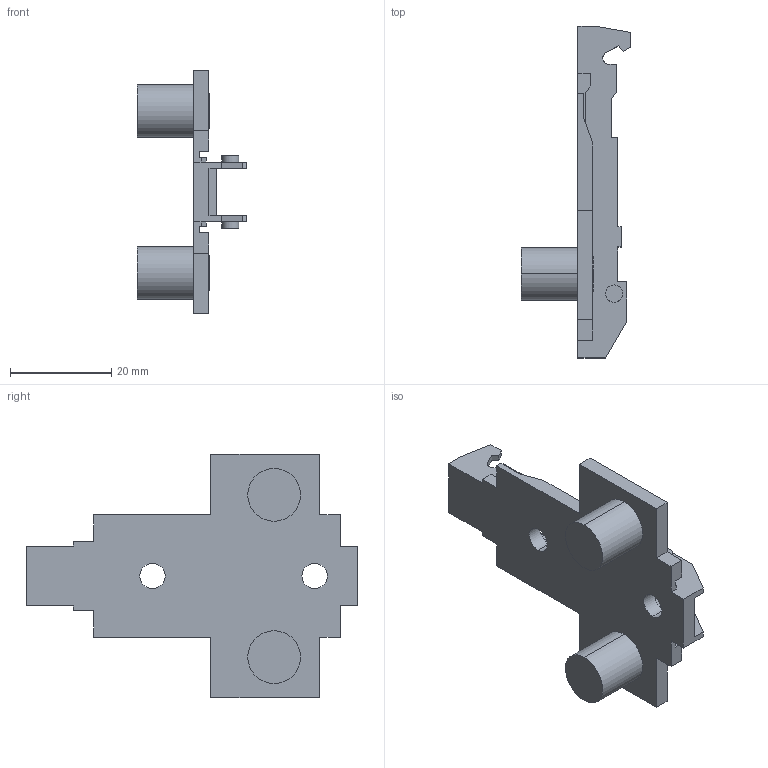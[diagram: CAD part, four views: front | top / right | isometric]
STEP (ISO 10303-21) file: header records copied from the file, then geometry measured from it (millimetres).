
FILE_DESCRIPTION (( 'STEP AP214' ), '1' );
FILE_NAME ('1D_Kreuzmontageplatte 28_32_10mm_Dübel_0.step', '2018-10-02T12:38:26', ( '' ), ( '' ), 'SwSTEP 2.0', 'SolidWorks 2017', '' );
FILE_SCHEMA (( 'AUTOMOTIVE_DESIGN' ));
Length unit declared in the file: millimetre
Products named in the file (1): 1D_Kreuzmontageplatte 28_32_10mm_Dübel_0
Bounding box: 21.7 x 65.5 x 48 mm (x, y, z)
Volume: 8042 mm3; surface area: 6865.2 mm2
Topology: 1 solids, 1 shells, 112 faces, 308 edges, 204 vertices
Faces by surface type: plane 86, cylinder 22, cone 4
Entity records: 3570 total; most frequent: CARTESIAN_POINT 625, ORIENTED_EDGE 616, DIRECTION 582, EDGE_CURVE 308, LINE 260, VECTOR 260, VERTEX_POINT 204, AXIS2_PLACEMENT_3D 161
